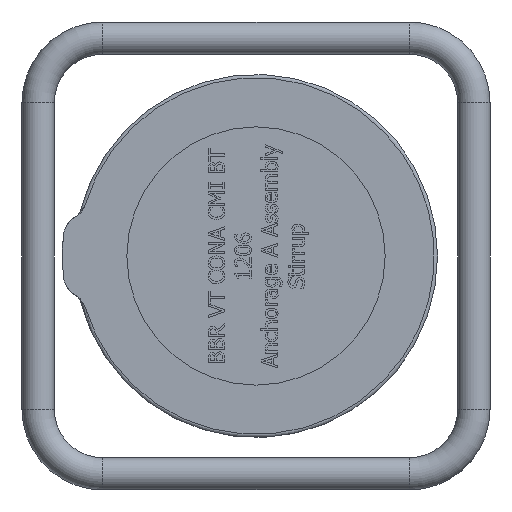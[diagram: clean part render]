
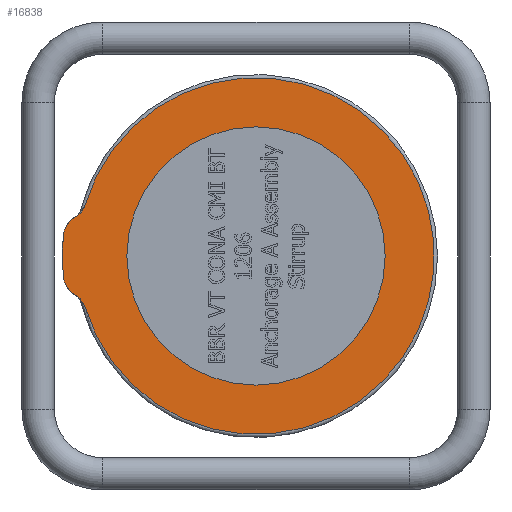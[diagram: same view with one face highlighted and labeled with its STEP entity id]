
A CAD part, left-side view. The second image highlights one B-rep face of the part: STEP entity #16838.
In plain terms, the highlighted planar face has unit normal (-1, 0, 0).
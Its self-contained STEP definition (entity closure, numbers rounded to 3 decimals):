
#111=FACE_BOUND('',#5935,.T.);
#1118=B_SPLINE_CURVE_WITH_KNOTS('',3,(#30314,#30315,#30316,#30317,#30318,
#30319,#30320,#30321,#30322,#30323),.UNSPECIFIED.,.F.,.F.,(4,2,2,2,4),(-0.002,
0.,0.262,0.626,0.867),.UNSPECIFIED.);
#1119=B_SPLINE_CURVE_WITH_KNOTS('',3,(#30327,#30328,#30329,#30330,#30331,
#30332,#30333,#30334,#30335,#30336),.UNSPECIFIED.,.F.,.F.,(4,2,2,2,4),(0.,
0.289,0.726,1.041,1.044),
 .UNSPECIFIED.);
#1547=PLANE('',#17514);
#4980=FACE_OUTER_BOUND('',#5934,.T.);
#5934=EDGE_LOOP('',(#14386,#14387,#14388,#14389,#14390,#14391));
#5935=EDGE_LOOP('',(#14392));
#6173=CIRCLE('',#17509,80.);
#6176=CIRCLE('',#17515,110.5);
#6177=CIRCLE('',#17516,15.);
#6178=CIRCLE('',#17517,120.);
#6179=CIRCLE('',#17518,15.);
#7777=VERTEX_POINT('',#30302);
#7780=VERTEX_POINT('',#30312);
#7781=VERTEX_POINT('',#30313);
#7782=VERTEX_POINT('',#30324);
#7783=VERTEX_POINT('',#30326);
#7784=VERTEX_POINT('',#30337);
#7785=VERTEX_POINT('',#30339);
#10003=EDGE_CURVE('',#7777,#7777,#6173,.T.);
#10006=EDGE_CURVE('',#7780,#7781,#1118,.T.);
#10007=EDGE_CURVE('',#7780,#7782,#6176,.T.);
#10008=EDGE_CURVE('',#7783,#7782,#1119,.T.);
#10009=EDGE_CURVE('',#7784,#7783,#6177,.T.);
#10010=EDGE_CURVE('',#7784,#7785,#6178,.T.);
#10011=EDGE_CURVE('',#7781,#7785,#6179,.T.);
#14386=ORIENTED_EDGE('',*,*,#10006,.F.);
#14387=ORIENTED_EDGE('',*,*,#10007,.T.);
#14388=ORIENTED_EDGE('',*,*,#10008,.F.);
#14389=ORIENTED_EDGE('',*,*,#10009,.F.);
#14390=ORIENTED_EDGE('',*,*,#10010,.T.);
#14391=ORIENTED_EDGE('',*,*,#10011,.F.);
#14392=ORIENTED_EDGE('',*,*,#10003,.T.);
#16838=ADVANCED_FACE('',(#4980,#111),#1547,.T.);
#17509=AXIS2_PLACEMENT_3D('',#30304,#20157,#20158);
#17514=AXIS2_PLACEMENT_3D('',#30311,#20167,#20168);
#17515=AXIS2_PLACEMENT_3D('',#30325,#20169,#20170);
#17516=AXIS2_PLACEMENT_3D('',#30338,#20171,#20172);
#17517=AXIS2_PLACEMENT_3D('',#30340,#20173,#20174);
#17518=AXIS2_PLACEMENT_3D('',#30341,#20175,#20176);
#20157=DIRECTION('center_axis',(1.,0.,0.));
#20158=DIRECTION('ref_axis',(0.,0.,
1.));
#20167=DIRECTION('center_axis',(-1.,0.,0.));
#20168=DIRECTION('ref_axis',(0.,0.,
1.));
#20169=DIRECTION('center_axis',(-1.,0.,0.));
#20170=DIRECTION('ref_axis',(0.,0.,
1.));
#20171=DIRECTION('center_axis',(1.,0.,0.));
#20172=DIRECTION('ref_axis',(0.,0.7,0.714));
#20173=DIRECTION('center_axis',(-1.,0.,0.));
#20174=DIRECTION('ref_axis',(0.,1.,0.));
#20175=DIRECTION('center_axis',(1.,0.,0.));
#20176=DIRECTION('ref_axis',(0.,0.7,-0.714));
#30302=CARTESIAN_POINT('',(-92.904,-49.335,-80.));
#30304=CARTESIAN_POINT('Origin',(-92.904,-49.335,0.));
#30311=CARTESIAN_POINT('Origin',(-92.904,-137.335,0.));
#30312=CARTESIAN_POINT('',(-92.904,56.655,-31.244));
#30313=CARTESIAN_POINT('',(-92.904,61.917,-24.646));
#30314=CARTESIAN_POINT('Ctrl Pts',(-92.904,56.655,-31.244));
#30315=CARTESIAN_POINT('Ctrl Pts',(-92.904,56.659,-31.239));
#30316=CARTESIAN_POINT('Ctrl Pts',(-92.904,56.662,-31.234));
#30317=CARTESIAN_POINT('Ctrl Pts',(-92.904,57.145,-30.498));
#30318=CARTESIAN_POINT('Ctrl Pts',(-92.904,57.595,-29.723));
#30319=CARTESIAN_POINT('Ctrl Pts',(-92.904,58.667,-27.928));
#30320=CARTESIAN_POINT('Ctrl Pts',(-92.904,59.253,-26.993));
#30321=CARTESIAN_POINT('Ctrl Pts',(-92.904,60.419,-25.685));
#30322=CARTESIAN_POINT('Ctrl Pts',(-92.904,61.06,-25.087));
#30323=CARTESIAN_POINT('Ctrl Pts',(-92.904,61.917,-24.646));
#30324=CARTESIAN_POINT('',(-92.904,56.655,31.244));
#30325=CARTESIAN_POINT('Origin',(-92.904,-49.335,0.));
#30326=CARTESIAN_POINT('',(-92.904,61.917,24.646));
#30327=CARTESIAN_POINT('Ctrl Pts',(-92.904,61.917,24.646));
#30328=CARTESIAN_POINT('Ctrl Pts',(-92.904,61.06,25.087));
#30329=CARTESIAN_POINT('Ctrl Pts',(-92.904,60.419,25.685));
#30330=CARTESIAN_POINT('Ctrl Pts',(-92.904,59.253,26.993));
#30331=CARTESIAN_POINT('Ctrl Pts',(-92.904,58.667,27.928));
#30332=CARTESIAN_POINT('Ctrl Pts',(-92.904,57.595,29.723));
#30333=CARTESIAN_POINT('Ctrl Pts',(-92.904,57.145,30.498));
#30334=CARTESIAN_POINT('Ctrl Pts',(-92.904,56.662,31.234));
#30335=CARTESIAN_POINT('Ctrl Pts',(-92.904,56.659,31.239));
#30336=CARTESIAN_POINT('Ctrl Pts',(-92.904,56.655,31.244));
#30337=CARTESIAN_POINT('',(-92.904,69.967,12.924));
#30338=CARTESIAN_POINT('Origin',(-92.904,55.054,11.308));
#30339=CARTESIAN_POINT('',(-92.904,69.967,-12.924));
#30340=CARTESIAN_POINT('Origin',(-92.904,-49.335,0.));
#30341=CARTESIAN_POINT('Origin',(-92.904,55.054,-11.308));
